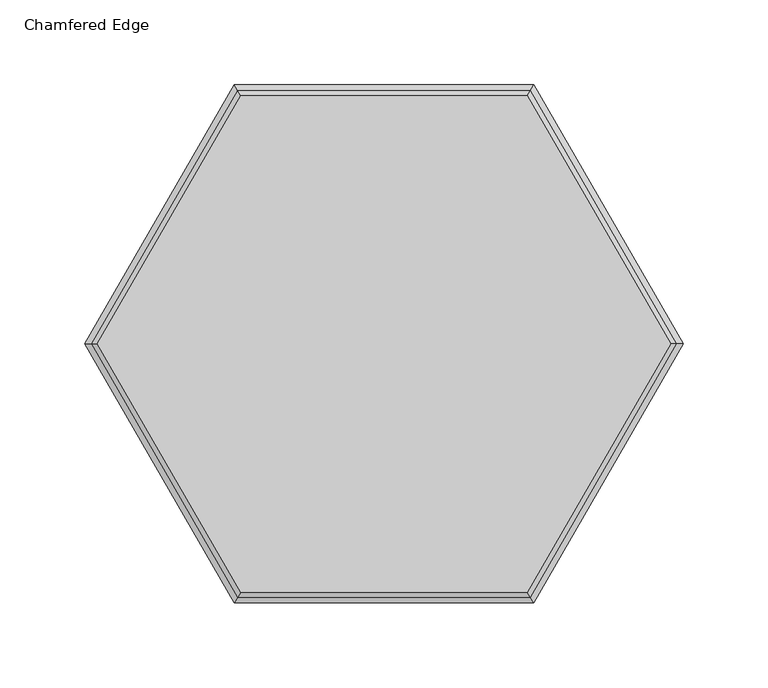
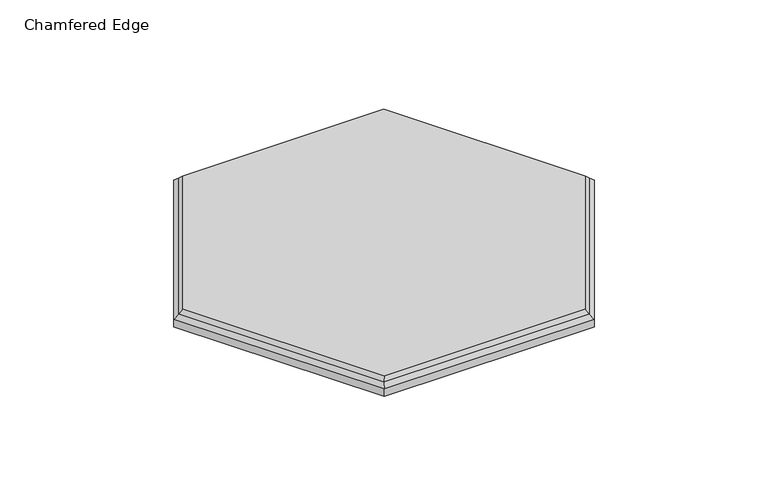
"""IFC4 building model written with IfcOpenShell, lengths in millimetres: proxy geometry, FilzFelt_Hex_Block : Chamfered Edge."""

from ifc_helpers import new_model, si_unit, origin, place, context, project, spatial, faceted_brep, source, transform, mapped, element, save


def chamfered_edge_e754ccc9(model_context):
    return source(origin(), model_context, "Body", "Brep", [
        faceted_brep([(172.081052, 0.0, 10.0210937), (86.040526, -149.0265625, 10.0210937), (-86.040526, -149.0265625, 10.0210937), (-172.081052, 0.0, 10.0210937), (-86.040526, 149.0265625, 10.0210937), (86.040526, 149.0265625, 10.0210937), (84.3220068, -146.05, 12.9976563), (168.6440136, 0.0, 12.9976563), (84.3220068, 146.05, 12.9976563), (-84.3220068, 146.05, 12.9976563), (-168.6440136, 0.0, 12.9976563), (-84.3220068, -146.05, 12.9976563)], [[[0, 1, 2, 3, 4, 5]], [[6, 7, 8, 9, 10, 11]], [[0, 7, 6, 1]], [[7, 0, 5, 8]], [[8, 5, 4, 9]], [[9, 4, 3, 10]], [[10, 3, 2, 11]], [[11, 2, 1, 6]]]),
        faceted_brep([(175.976362, 0.0, 0.0), (87.988181, -152.4, 0.0), (-87.988181, -152.4, 0.0), (-175.976362, 0.0, 0.0), (-87.988181, 152.4, 0.0), (87.988181, 152.4, 0.0), (86.040526, -149.0265625, 10.0210937), (172.081052, 0.0, 10.0210937), (86.040526, 149.0265625, 10.0210937), (-86.040526, 149.0265625, 10.0210937), (-172.081052, 0.0, 10.0210937), (-86.040526, -149.0265625, 10.0210937), (175.976362, 0.0, 6.6476563), (87.988181, -152.4, 6.6476563), (-87.988181, -152.4, 6.6476562), (-175.976362, 0.0, 6.6476563), (-87.988181, 152.4, 6.6476563), (87.988181, 152.4, 6.6476563)], [[[0, 1, 2, 3, 4, 5]], [[6, 7, 8, 9, 10, 11]], [[1, 0, 12, 13]], [[2, 1, 13, 14]], [[3, 2, 14, 15]], [[4, 3, 15, 16]], [[5, 4, 16, 17]], [[0, 5, 17, 12]], [[12, 7, 6, 13]], [[7, 12, 17, 8]], [[8, 17, 16, 9]], [[9, 16, 15, 10]], [[10, 15, 14, 11]], [[11, 14, 13, 6]]]),
    ])


if __name__ == "__main__":
    model = new_model("IFC4")
    model_context = context("Model", 3, world=origin())
    ifc_project = project(units=[si_unit("LENGTHUNIT", "METRE", prefix="MILLI")], contexts=[model_context])
    site = spatial("IfcSite", under=ifc_project)
    building = spatial("IfcBuilding", under=site)
    placement = place(None, origin())
    chamfered_edge_shape = chamfered_edge_e754ccc9(model_context)
    element("IfcBuildingElementProxy", 1, Name="FilzFelt_Hex_Block : Chamfered Edge", ObjectType="FilzFelt_Hex_Block : Chamfered Edge", at=placement, inside=building, context=model_context, shape_type="MappedRepresentation", body=[
        mapped(chamfered_edge_shape, transform((0.0, 0.0, 0.0), x_axis=(1.0, 0.0, 0.0), y_axis=(0.0, 1.0, 0.0), z_axis=(0.0, 0.0, 1.0))),
    ])
    save(model, "model.ifc")
